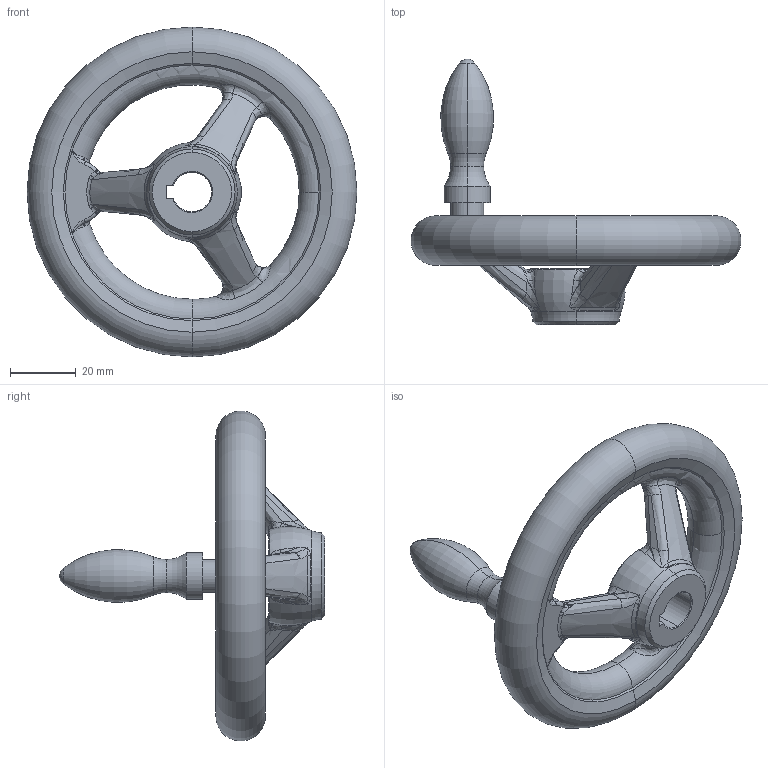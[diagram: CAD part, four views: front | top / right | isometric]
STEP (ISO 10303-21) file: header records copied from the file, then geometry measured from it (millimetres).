
FILE_DESCRIPTION (( 'STEP AP203' ), '1' );
FILE_NAME ('din950_d3_100x12.step', '2010-03-23T10:03:50', ( '_' ), ( '_' ), 'SwSTEP 2.0', 'SolidWorks 2010', '' );
FILE_SCHEMA (( 'CONFIG_CONTROL_DESIGN' ));
Length unit declared in the file: millimetre
Products named in the file (1): din950_d3_100x12
Bounding box: 100 x 80.5 x 100 mm (x, y, z)
Volume: 73939.7 mm3; surface area: 20242.1 mm2
Topology: 1 solids, 1 shells, 211 faces, 513 edges, 278 vertices
Faces by surface type: bspline 130, torus 27, cone 18, plane 14, cylinder 12, sphere 10
Entity records: 23397 total; most frequent: CARTESIAN_POINT 19254, ORIENTED_EDGE 982, DIRECTION 636, EDGE_CURVE 491, AXIS2_PLACEMENT_3D 300, VERTEX_POINT 278, B_SPLINE_CURVE_WITH_KNOTS 233, CIRCLE 218
